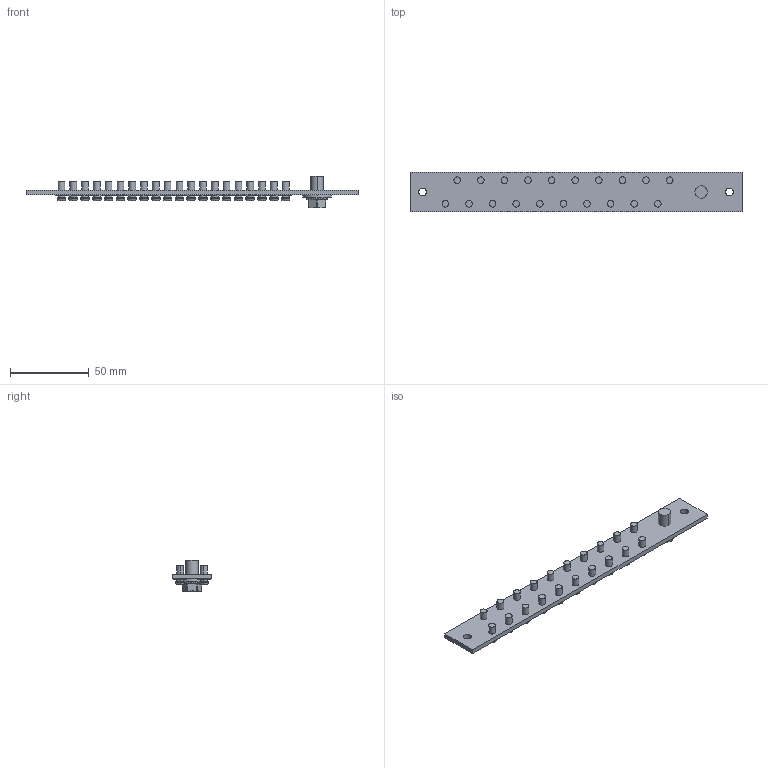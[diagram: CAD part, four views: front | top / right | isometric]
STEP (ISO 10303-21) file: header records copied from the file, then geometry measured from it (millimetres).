
FILE_DESCRIPTION(('Creo Elements/Direct Modeling STEP Export'),'2;1');
FILE_NAME('21.stp','2025-07-24T17:26:54',(''),(''),'PTC Creo Elements/Direct Modeling STEP processor for AP214 (Solid Model)','PTC Creo Elements/Direct Modeling 19.0 09-May-2014 (C) Parametric Technology GmbH','');
FILE_SCHEMA(('AUTOMOTIVE_DESIGN { 1 0 10303 214 1 1 1 1 }'));
Length unit declared in the file: millimetre
Products named in the file (16): QUILT_3-34740.PRT; QUILT_2-34360.PRT; QUILT_1-14960.PRT; USER_LIBRARY-SAN_ZU_HE_LUO-2060.PRT; M5_1_1_1_1_1_1_1_1_2.ASM; SCREW_1_2_PRT.PRT; SCREW_1_1_PRT.PRT; SCREW_1_ASM.ASM; SCREW_0723_STP.ASM; A1.ASM; CU.PRT; QUILT_3-86080.PRT; QUILT_2-85700.PRT; M5_1_1_1_1_1_1_1_1_1_1_1_1_1_1.ASM; 21N_1.ASM; 21.stp
Assembly tree (35 placements, depth 5):
  21.stp
    21N_1.ASM
      M5_1_1_1_1_1_1_1_1_1_1_1_1_1_1.ASM  x2
        QUILT_2-85700.PRT
        QUILT_3-86080.PRT
      CU.PRT
      A1.ASM
        M5_1_1_1_1_1_1_1_1_2.ASM  x10
          USER_LIBRARY-SAN_ZU_HE_LUO-2060.PRT
          QUILT_1-14960.PRT
          QUILT_2-34360.PRT
          QUILT_3-34740.PRT
      SCREW_0723_STP.ASM
        SCREW_1_ASM.ASM
          SCREW_1_1_PRT.PRT
          SCREW_1_2_PRT.PRT
      M5_1_1_1_1_1_1_1_1_2.ASM  x10
        USER_LIBRARY-SAN_ZU_HE_LUO-2060.PRT
        QUILT_1-14960.PRT
        QUILT_2-34360.PRT
        QUILT_3-34740.PRT
Bounding box: 211 x 25 x 20 mm (x, y, z)
Volume: 20507.4 mm3; surface area: 20234.4 mm2
Topology: 43 solids, 43 shells, 880 faces, 2229 edges, 1459 vertices
Faces by surface type: plane 492, cylinder 304, torus 84
Entity records: 5084 total; most frequent: CARTESIAN_POINT 795, DIRECTION 746, ORIENTED_EDGE 734, EDGE_CURVE 367, AXIS2_PLACEMENT_3D 283, VERTEX_POINT 243, EDGE_LOOP 194, VECTOR 180
